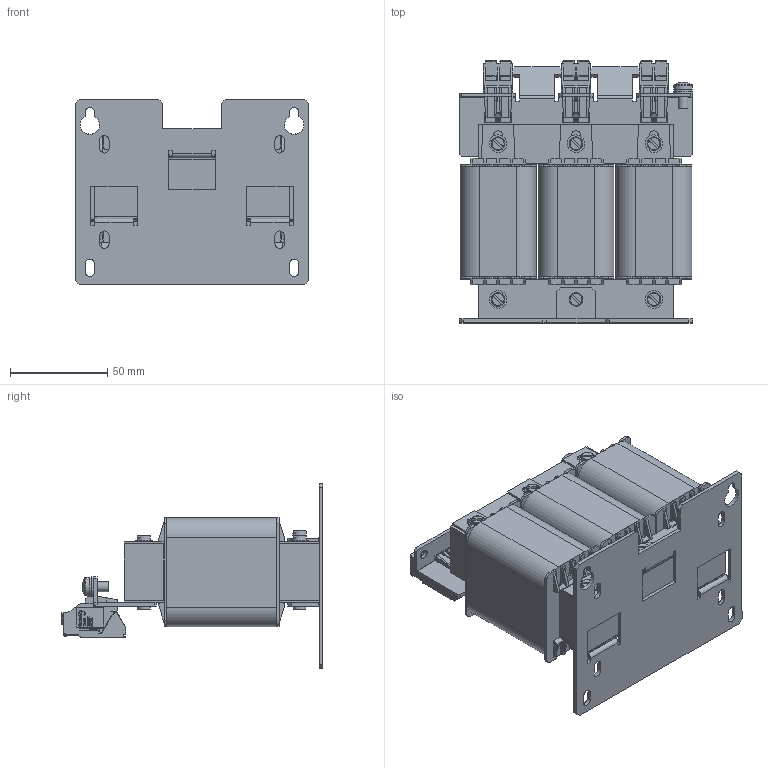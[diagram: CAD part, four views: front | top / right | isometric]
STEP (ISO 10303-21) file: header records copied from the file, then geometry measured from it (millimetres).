
FILE_DESCRIPTION (( 'STEP AP214' ), '1' );
FILE_NAME ('PCT-016.STEP', '2015-04-28T09:54:56', ( 'EDV' ), ( 'Microsoft' ), 'SwSTEP 2.0', 'SolidWorks 2014', '' );
FILE_SCHEMA (( 'AUTOMOTIVE_DESIGN' ));
Length unit declared in the file: millimetre
Products named in the file (14): Plain Washer Grade A_DIN_Washer DIN 125 - A 4.3; #080-0544; WickelUI60_31_1oD; 3UI60-29; UI60-31oD; #144-0146; #040-0873_#040-1672; PCT-016; BTK 4_2 +2202-0006; Pan Head Cross Recess Screw_DIN_ISO 7045 - M5 x 10 - Z --- 10N; Curved Spring Lock Washer_DIN_Spring washer DIN 128 - A5; Plain Washer Grade A_DIN_Washer DIN 125 - A 5.3; Slotted Cheese Head Screw_DIN_ISO 1207 - M4 x 35 --- 35N; Slotted Cheese Head Screw_DIN_ISO 1207 - M4 x 16 --- 16N
Assembly tree (28 placements, depth 2):
  PCT-016
    #040-0873_#040-1672
    #144-0146  x2
    UI60-31oD  x3
    3UI60-29
    WickelUI60_31_1oD  x3
    #080-0544
    Plain Washer Grade A_DIN_Washer DIN 125 - A 4.3  x5
    Slotted Cheese Head Screw_DIN_ISO 1207 - M4 x 16 --- 16N
    Slotted Cheese Head Screw_DIN_ISO 1207 - M4 x 35 --- 35N  x5
    Plain Washer Grade A_DIN_Washer DIN 125 - A 5.3
    Curved Spring Lock Washer_DIN_Spring washer DIN 128 - A5
    Pan Head Cross Recess Screw_DIN_ISO 7045 - M5 x 10 - Z --- 10N
    BTK 4_2 +2202-0006  x3
Bounding box: 120 x 134.5 x 95 mm (x, y, z)
Volume: 536658.5 mm3; surface area: 237502.1 mm2
Topology: 29 solids, 29 shells, 6492 faces, 18044 edges, 11742 vertices
Faces by surface type: plane 5233, cylinder 894, bspline 298, torus 55, cone 11, sphere 1
Full cylindrical faces by diameter (mm): 3.7 x6, 3.76 x1, 4 x6, 4.3 x5, 4.5 x12, 4.6 x2, 5 x1, 5.3 x1, 6.5 x6, 9 x5, 9.5 x1, 10 x1
Entity records: 91376 total; most frequent: CARTESIAN_POINT 21991, ORIENTED_EDGE 14496, DIRECTION 12585, EDGE_CURVE 7248, VECTOR 6143, LINE 6143, VERTEX_POINT 4736, AXIS2_PLACEMENT_3D 3221
